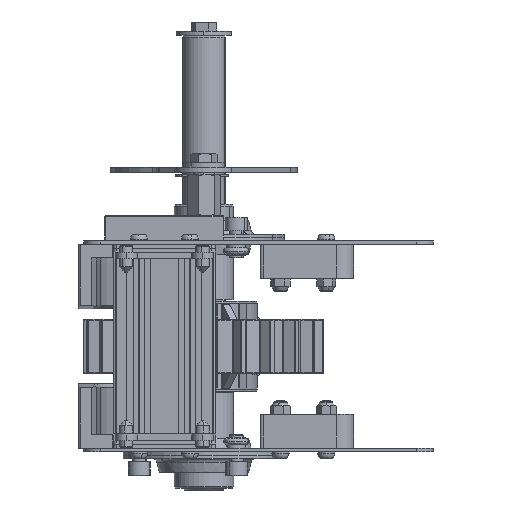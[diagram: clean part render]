
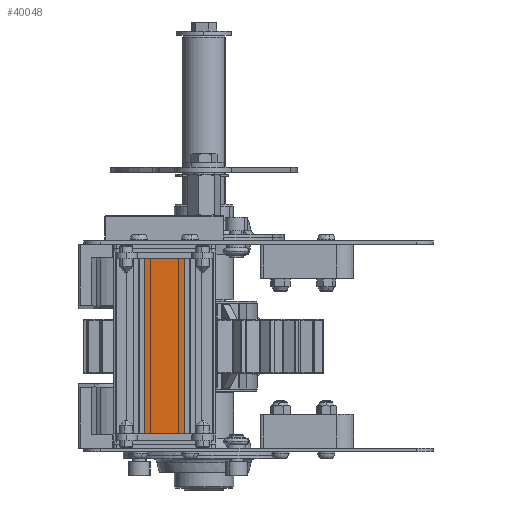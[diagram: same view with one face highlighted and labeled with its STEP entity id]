
A CAD part, left-side view. The second image highlights one B-rep face of the part: STEP entity #40048.
In plain terms, the highlighted planar face has unit normal (-1, 0, 0).
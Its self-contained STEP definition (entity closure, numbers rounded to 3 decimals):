
#685 = CARTESIAN_POINT ( 'NONE',  ( -15., 26.85, 103. ) ) ;
#943 = DIRECTION ( 'NONE',  ( 0., 0., -1. ) ) ;
#2233 = ORIENTED_EDGE ( 'NONE', *, *, #51386, .T. ) ;
#2270 = CARTESIAN_POINT ( 'NONE',  ( -15., 3.15, 103. ) ) ;
#3953 = EDGE_CURVE ( 'NONE', #37036, #9077, #69685, .T. ) ;
#5627 = EDGE_CURVE ( 'NONE', #37036, #12361, #17514, .T. ) ;
#9077 = VERTEX_POINT ( 'NONE', #34151 ) ;
#9878 = ORIENTED_EDGE ( 'NONE', *, *, #5627, .F. ) ;
#10578 = FACE_OUTER_BOUND ( 'NONE', #60554, .T. ) ;
#11080 = DIRECTION ( 'NONE',  ( 0., -1., 0. ) ) ;
#12361 = VERTEX_POINT ( 'NONE', #20547 ) ;
#16713 = CARTESIAN_POINT ( 'NONE',  ( -15., 26.85, 103. ) ) ;
#16855 = CARTESIAN_POINT ( 'NONE',  ( -15., 26.85, 0. ) ) ;
#17514 = LINE ( 'NONE', #16713, #33558 ) ;
#20547 = CARTESIAN_POINT ( 'NONE',  ( -15., 3.15, 103. ) ) ;
#28613 = LINE ( 'NONE', #2270, #64483 ) ;
#29566 = ORIENTED_EDGE ( 'NONE', *, *, #39573, .F. ) ;
#29815 = VERTEX_POINT ( 'NONE', #77231 ) ;
#31041 = PLANE ( 'NONE',  #69059 ) ;
#33558 = VECTOR ( 'NONE', #40967, 1000. ) ;
#34151 = CARTESIAN_POINT ( 'NONE',  ( -15., 26.85, 0. ) ) ;
#34227 = VECTOR ( 'NONE', #11080, 1000. ) ;
#37036 = VERTEX_POINT ( 'NONE', #59158 ) ;
#37126 = DIRECTION ( 'NONE',  ( 1., 0., 0. ) ) ;
#37569 = VECTOR ( 'NONE', #43579, 1000. ) ;
#38022 = LINE ( 'NONE', #16855, #34227 ) ;
#39573 = EDGE_CURVE ( 'NONE', #12361, #29815, #28613, .T. ) ;
#40048 = ADVANCED_FACE ( 'NONE', ( #10578 ), #31041, .F. ) ;
#40967 = DIRECTION ( 'NONE',  ( 0., -1., 0. ) ) ;
#43579 = DIRECTION ( 'NONE',  ( 0., 0., -1. ) ) ;
#44420 = DIRECTION ( 'NONE',  ( 0., 0., -1. ) ) ;
#45165 = ORIENTED_EDGE ( 'NONE', *, *, #3953, .T. ) ;
#51386 = EDGE_CURVE ( 'NONE', #9077, #29815, #38022, .T. ) ;
#59158 = CARTESIAN_POINT ( 'NONE',  ( -15., 26.85, 103. ) ) ;
#60554 = EDGE_LOOP ( 'NONE', ( #2233, #29566, #9878, #45165 ) ) ;
#64483 = VECTOR ( 'NONE', #44420, 1000. ) ;
#69059 = AXIS2_PLACEMENT_3D ( 'NONE', #685, #37126, #943 ) ;
#69685 = LINE ( 'NONE', #73745, #37569 ) ;
#73745 = CARTESIAN_POINT ( 'NONE',  ( -15., 26.85, 103. ) ) ;
#77231 = CARTESIAN_POINT ( 'NONE',  ( -15., 3.15, 0. ) ) ;
